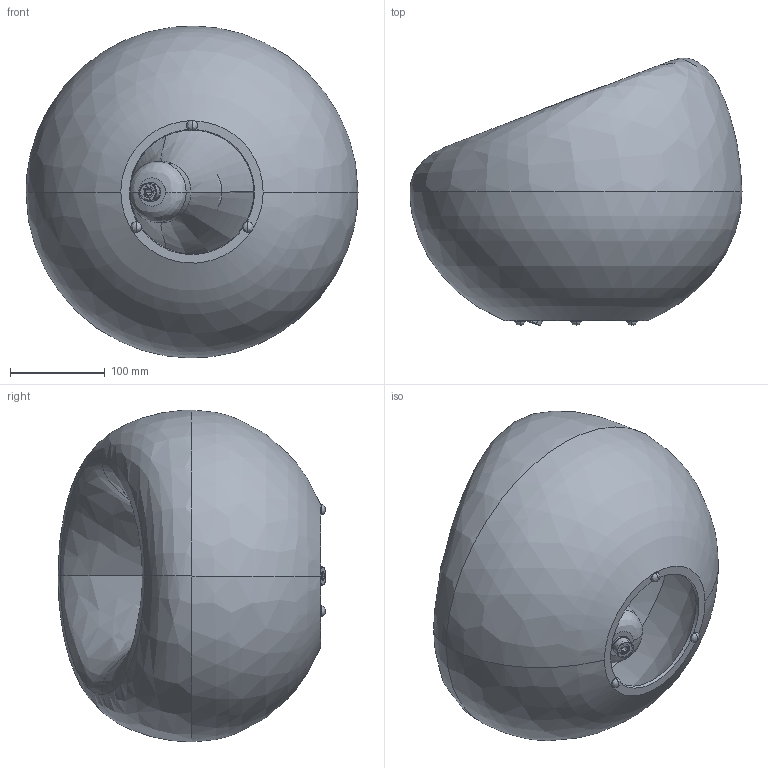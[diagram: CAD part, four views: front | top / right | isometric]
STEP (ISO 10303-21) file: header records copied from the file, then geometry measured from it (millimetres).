
FILE_DESCRIPTION(/* description */ (''),/* implementation_level */ '2;1');
FILE_NAME(/* name */ '00457M~1',/* time_stamp */ '2022-02-14T12:48:51+01:00',/* author */ (''),/* organization */ (''),/* preprocessor_version */ 'ST-DEVELOPER v16.5',/* originating_system */ '',/* authorisation */ '');
FILE_SCHEMA (('CONFIG_CONTROL_DESIGN'));
Length unit declared in the file: millimetre
Products named in the file (10): Document; PIEDINO IN SILICONE NERO. D.11.2 sj5003; LAMPADINA E27 PER ISTRUZIONI DI MONTAGGIO; BLOCCAFILI PER PORTALAMPADE 5970 27; BOCCOLA COPRIDADO M10X1; COPRI PTL E26; Portalampada E27 + Cappello M10x1 a scatto; TIGE M10X1 L25mm; DADO M10x1 H2 ZINCATO; RONDELLA IN PA6 NATURALE ØINT10,5 - ØEST 20 - S
P2
Assembly tree (12 placements, depth 2):
  Document
    PIEDINO IN SILICONE NERO. D.11.2 sj5003  x3
    LAMPADINA E27 PER ISTRUZIONI DI MONTAGGIO
    BLOCCAFILI PER PORTALAMPADE 5970 27
    BOCCOLA COPRIDADO M10X1
    COPRI PTL E26
    Portalampada E27 + Cappello M10x1 a scatto
    TIGE M10X1 L25mm
    DADO M10x1 H2 ZINCATO
    RONDELLA IN PA6 NATURALE ØINT10,5 - ØEST 20 - S
P2  x2
Bounding box: 350 x 282.41 x 349.95 mm (x, y, z)
Volume: 2804209.2 mm3; surface area: 782489.4 mm2
Topology: 14 solids, 14 shells, 257 faces, 725 edges, 496 vertices
Faces by surface type: plane 97, cylinder 96, bspline 64
Entity records: 20305 total; most frequent: CARTESIAN_POINT 14867, ORIENTED_EDGE 1342, EDGE_CURVE 671, VERTEX_POINT 462, B_SPLINE_CURVE_WITH_KNOTS 298, EDGE_LOOP 267, DIRECTION 243, ADVANCED_FACE 239
